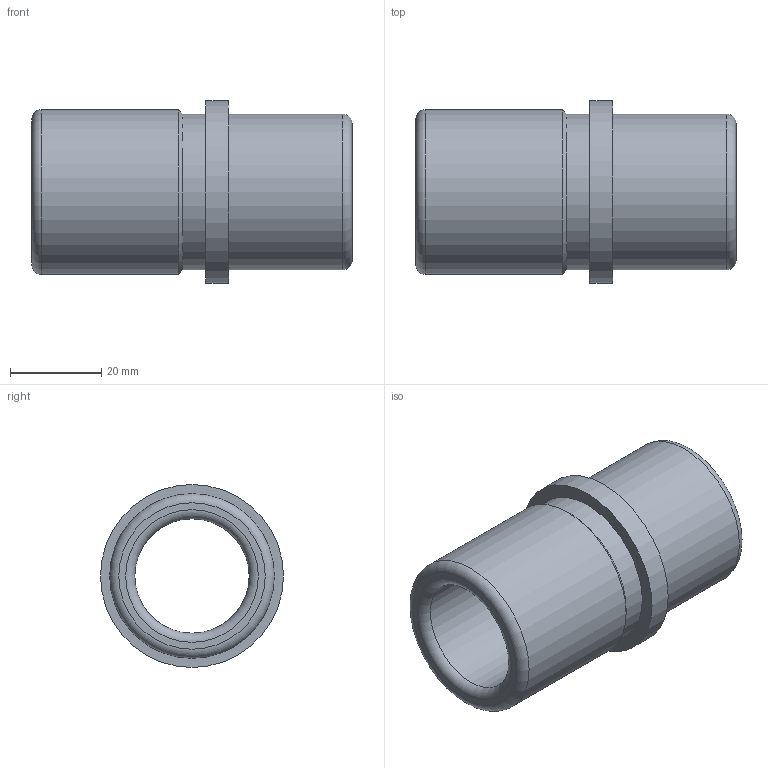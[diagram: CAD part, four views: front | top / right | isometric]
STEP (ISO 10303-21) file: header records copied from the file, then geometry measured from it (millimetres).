
FILE_DESCRIPTION( ( 'STEP AP214' ), '1' );
FILE_NAME( 'p:/temp/worker_27/temp/exporttempdir_4504_482_u05kZ/format_0/WZ - 4053 18 x 70 - 25.stp', '2020-12-04T20:02:08', ( 'License CC BY-ND 4.0' ), ( 'CADENAS' ), ' ', 'PARTsolutions', ' ' );
FILE_SCHEMA( ( 'AUTOMOTIVE_DESIGN { 1 0 10303 214 1 1 1 1 }' ) );
Length unit declared in the file: millimetre
Products named in the file (1): _WZ - 4053 18 x 70 - 25
Bounding box: 70 x 40 x 40 mm (x, y, z)
Volume: 34186.3 mm3; surface area: 14636.6 mm2
Topology: 1 solids, 1 shells, 14 faces, 24 edges, 14 vertices
Faces by surface type: cylinder 5, plane 4, torus 4, cone 1
Full cylindrical faces by diameter (mm): 25 x1, 34 x2, 36 x1, 40 x1
Entity records: 416 total; most frequent: DIRECTION 58, CARTESIAN_POINT 43, AXIS2_PLACEMENT_3D 29, EDGE_LOOP 28, ORIENTED_EDGE 28, FACE_OUTER_BOUND 23, STYLED_ITEM 14, PRESENTATION_STYLE_ASSIGNMENT 14
